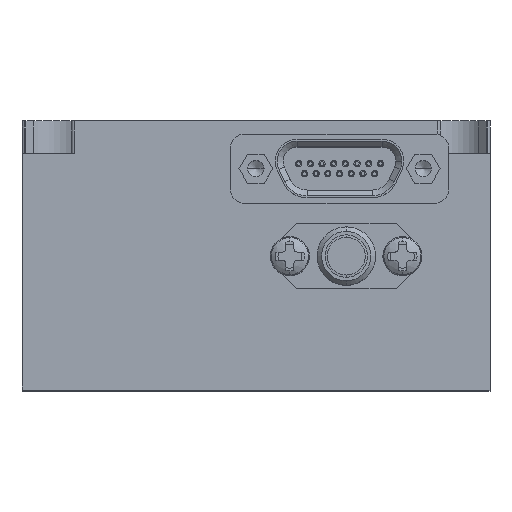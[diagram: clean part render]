
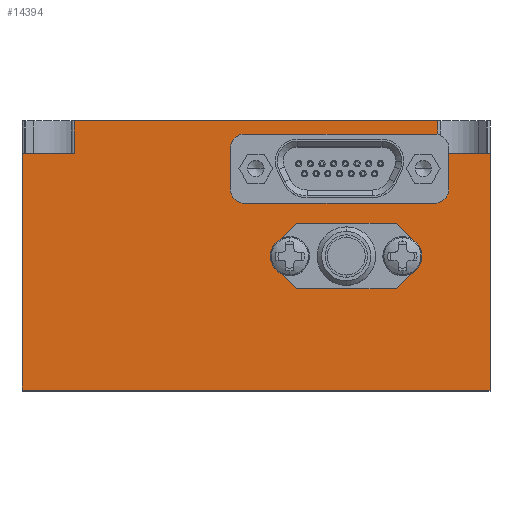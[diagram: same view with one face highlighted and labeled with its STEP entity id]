
A CAD part, top view. The second image highlights one B-rep face of the part: STEP entity #14394.
In plain terms, the highlighted planar face has unit normal (0, 0, 1).
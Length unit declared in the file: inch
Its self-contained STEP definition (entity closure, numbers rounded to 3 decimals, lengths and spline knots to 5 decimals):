
#39 = VECTOR ( 'NONE', #19403, 39.37008 ) ;
#342 = LINE ( 'NONE', #13637, #23794 ) ;
#867 = VECTOR ( 'NONE', #27458, 39.37008 ) ;
#1220 = LINE ( 'NONE', #26122, #24819 ) ;
#1257 = LINE ( 'NONE', #12349, #39 ) ;
#1355 = CARTESIAN_POINT ( 'NONE',  ( -2., 1.0106, 1.5 ) ) ;
#1656 = CARTESIAN_POINT ( 'NONE',  ( -1.77698, 1.1506, 1.5 ) ) ;
#2042 = ORIENTED_EDGE ( 'NONE', *, *, #24578, .T. ) ;
#2093 = CARTESIAN_POINT ( 'NONE',  ( -1.77698, 1.0106, 1.5 ) ) ;
#2718 = CARTESIAN_POINT ( 'NONE',  ( -0.22302, 1.1506, 1.5 ) ) ;
#3049 = ORIENTED_EDGE ( 'NONE', *, *, #16070, .F. ) ;
#4190 = CARTESIAN_POINT ( 'NONE',  ( -2., 0., 1.5 ) ) ;
#4200 = CARTESIAN_POINT ( 'NONE',  ( -2., 0., 1.5 ) ) ;
#4373 = EDGE_CURVE ( 'NONE', #19917, #18265, #9499, .T. ) ;
#4723 = VECTOR ( 'NONE', #22641, 39.37008 ) ;
#4877 = EDGE_CURVE ( 'NONE', #6880, #18461, #17049, .T. ) ;
#6080 = ORIENTED_EDGE ( 'NONE', *, *, #26634, .F. ) ;
#6513 = CARTESIAN_POINT ( 'NONE',  ( -1.77698, 1.0106, 1.5 ) ) ;
#6599 = CARTESIAN_POINT ( 'NONE',  ( 0., 1.0106, 1.5 ) ) ;
#6880 = VERTEX_POINT ( 'NONE', #1355 ) ;
#6988 = CARTESIAN_POINT ( 'NONE',  ( -0.22302, 1.0106, 1.5 ) ) ;
#8058 = CARTESIAN_POINT ( 'NONE',  ( -2., 1.1506, 1.5 ) ) ;
#8208 = FACE_OUTER_BOUND ( 'NONE', #15484, .T. ) ;
#9016 = DIRECTION ( 'NONE',  ( 0., 1., 0. ) ) ;
#9499 = LINE ( 'NONE', #18488, #867 ) ;
#10256 = DIRECTION ( 'NONE',  ( 1., 0., 0. ) ) ;
#10285 = DIRECTION ( 'NONE',  ( 0., 0., -1. ) ) ;
#10408 = CARTESIAN_POINT ( 'NONE',  ( 0., 0., 1.5 ) ) ;
#10763 = VECTOR ( 'NONE', #10256, 39.37008 ) ;
#10802 = VECTOR ( 'NONE', #26019, 39.37008 ) ;
#11934 = ORIENTED_EDGE ( 'NONE', *, *, #4373, .T. ) ;
#12349 = CARTESIAN_POINT ( 'NONE',  ( 0., 1.1506, 1.5 ) ) ;
#13211 = ORIENTED_EDGE ( 'NONE', *, *, #13333, .F. ) ;
#13333 = EDGE_CURVE ( 'NONE', #6880, #20197, #342, .T. ) ;
#13637 = CARTESIAN_POINT ( 'NONE',  ( -2., 1.0106, 1.5 ) ) ;
#13679 = LINE ( 'NONE', #6599, #4723 ) ;
#14082 = ORIENTED_EDGE ( 'NONE', *, *, #16242, .F. ) ;
#14148 = ORIENTED_EDGE ( 'NONE', *, *, #26006, .F. ) ;
#14394 = ADVANCED_FACE ( 'NONE', ( #8208 ), #19701, .F. ) ;
#14954 = DIRECTION ( 'NONE',  ( 1., 0., 0. ) ) ;
#15253 = AXIS2_PLACEMENT_3D ( 'NONE', #8058, #10285, #23818 ) ;
#15484 = EDGE_LOOP ( 'NONE', ( #11934, #14148, #6080, #13211, #29086, #2042, #14082, #3049 ) ) ;
#16070 = EDGE_CURVE ( 'NONE', #19917, #25165, #13679, .T. ) ;
#16242 = EDGE_CURVE ( 'NONE', #25165, #24455, #1257, .T. ) ;
#17049 = LINE ( 'NONE', #21472, #10802 ) ;
#18265 = VERTEX_POINT ( 'NONE', #2718 ) ;
#18461 = VERTEX_POINT ( 'NONE', #4190 ) ;
#18488 = CARTESIAN_POINT ( 'NONE',  ( -0.22302, 1.0106, 1.5 ) ) ;
#19403 = DIRECTION ( 'NONE',  ( 0., -1., 0. ) ) ;
#19701 = PLANE ( 'NONE',  #15253 ) ;
#19917 = VERTEX_POINT ( 'NONE', #6988 ) ;
#20096 = VERTEX_POINT ( 'NONE', #1656 ) ;
#20197 = VERTEX_POINT ( 'NONE', #2093 ) ;
#21472 = CARTESIAN_POINT ( 'NONE',  ( -2., 1.1506, 1.5 ) ) ;
#22022 = LINE ( 'NONE', #4200, #10763 ) ;
#22554 = LINE ( 'NONE', #6513, #26682 ) ;
#22641 = DIRECTION ( 'NONE',  ( 1., 0., 0. ) ) ;
#23472 = CARTESIAN_POINT ( 'NONE',  ( 0., 1.0106, 1.5 ) ) ;
#23794 = VECTOR ( 'NONE', #27304, 39.37008 ) ;
#23818 = DIRECTION ( 'NONE',  ( -1., 0., 0. ) ) ;
#24455 = VERTEX_POINT ( 'NONE', #10408 ) ;
#24578 = EDGE_CURVE ( 'NONE', #18461, #24455, #22022, .T. ) ;
#24819 = VECTOR ( 'NONE', #14954, 39.37008 ) ;
#25165 = VERTEX_POINT ( 'NONE', #23472 ) ;
#26006 = EDGE_CURVE ( 'NONE', #20096, #18265, #1220, .T. ) ;
#26019 = DIRECTION ( 'NONE',  ( 0., -1., 0. ) ) ;
#26122 = CARTESIAN_POINT ( 'NONE',  ( -2., 1.1506, 1.5 ) ) ;
#26634 = EDGE_CURVE ( 'NONE', #20197, #20096, #22554, .T. ) ;
#26682 = VECTOR ( 'NONE', #9016, 39.37008 ) ;
#27304 = DIRECTION ( 'NONE',  ( 1., 0., 0. ) ) ;
#27458 = DIRECTION ( 'NONE',  ( 0., 1., 0. ) ) ;
#29086 = ORIENTED_EDGE ( 'NONE', *, *, #4877, .T. ) ;
